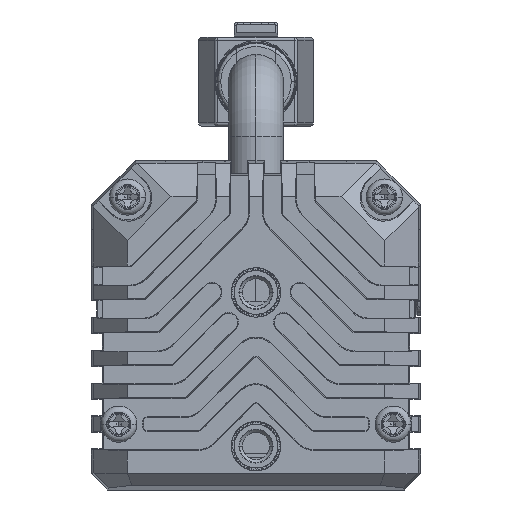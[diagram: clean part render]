
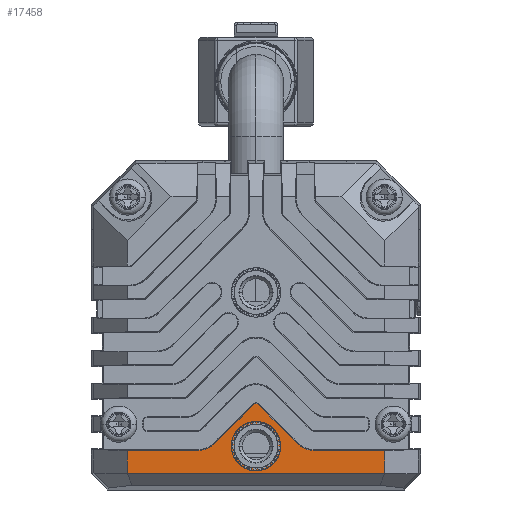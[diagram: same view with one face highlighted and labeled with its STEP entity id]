
A CAD part, left-side view. The second image highlights one B-rep face of the part: STEP entity #17458.
In plain terms, the highlighted planar face has unit normal (-1, 0, 0) as drawn and (1, 0, 0) by its records, which use the part's own axes.
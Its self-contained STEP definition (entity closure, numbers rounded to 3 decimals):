
#10366=CARTESIAN_POINT('',(5.,0.,7.527));
#10367=DIRECTION('',(1.,0.,0.));
#10368=DIRECTION('',(0.,0.707,0.707));
#10369=AXIS2_PLACEMENT_3D('',#10366,#10367,#10368);
#10375=DIRECTION('',(0.,0.707,-0.707));
#10376=VECTOR('',#10375,5.013);
#10377=CARTESIAN_POINT('',(5.,0.242,7.769));
#10378=LINE('',#10377,#10376);
#10382=DIRECTION('',(0.,-1.,0.));
#10383=VECTOR('',#10382,6.438);
#10384=CARTESIAN_POINT('',(5.,11.75,3.593));
#10385=LINE('',#10384,#10383);
#10389=DIRECTION('',(0.,0.,1.));
#10390=VECTOR('',#10389,2.093);
#10391=CARTESIAN_POINT('',(5.,11.75,1.5));
#10392=LINE('',#10391,#10390);
#10396=DIRECTION('',(0.,1.,0.));
#10397=VECTOR('',#10396,23.5);
#10398=CARTESIAN_POINT('',(5.,-11.75,1.5));
#10399=LINE('',#10398,#10397);
#10403=DIRECTION('',(0.,0.,-1.));
#10404=VECTOR('',#10403,2.093);
#10405=CARTESIAN_POINT('',(5.,-11.75,3.593));
#10406=LINE('',#10405,#10404);
#10410=DIRECTION('',(0.,1.,0.));
#10411=VECTOR('',#10410,6.438);
#10412=CARTESIAN_POINT('',(5.,-11.75,3.593));
#10413=LINE('',#10412,#10411);
#10417=DIRECTION('',(0.,0.707,0.707));
#10418=VECTOR('',#10417,5.013);
#10419=CARTESIAN_POINT('',(5.,-3.787,4.225));
#10420=LINE('',#10419,#10418);
#10424=CARTESIAN_POINT('',(5.,0.,4.));
#10425=DIRECTION('',(1.,0.,0.));
#10426=DIRECTION('',(0.,1.,0.));
#10427=AXIS2_PLACEMENT_3D('',#10424,#10425,#10426);
#10432=CARTESIAN_POINT('',(5.,0.,4.));
#10433=DIRECTION('',(1.,0.,0.));
#10434=DIRECTION('',(0.,-1.,0.));
#10435=AXIS2_PLACEMENT_3D('',#10432,#10433,#10434);
#11161=CARTESIAN_POINT('',(5.,-5.312,5.75));
#11162=DIRECTION('',(-1.,0.,0.));
#11163=DIRECTION('',(0.,0.707,-0.707));
#11164=AXIS2_PLACEMENT_3D('',#11161,#11162,#11163);
#14680=CARTESIAN_POINT('',(5.,5.312,5.75));
#14681=DIRECTION('',(-1.,0.,0.));
#14682=DIRECTION('',(0.,0.,-1.));
#14683=AXIS2_PLACEMENT_3D('',#14680,#14681,#14682);
#16353=CARTESIAN_POINT('',(5.,2.,4.));
#16354=CARTESIAN_POINT('',(5.,-2.,4.));
#16355=VERTEX_POINT('',#16353);
#16356=VERTEX_POINT('',#16354);
#16357=CARTESIAN_POINT('',(5.,-11.75,1.5));
#16358=CARTESIAN_POINT('',(5.,11.75,1.5));
#16359=VERTEX_POINT('',#16357);
#16360=VERTEX_POINT('',#16358);
#16459=CARTESIAN_POINT('',(5.,5.312,3.593));
#16460=VERTEX_POINT('',#16459);
#16461=CARTESIAN_POINT('',(5.,3.787,4.225));
#16462=VERTEX_POINT('',#16461);
#16467=CARTESIAN_POINT('',(5.,-3.787,4.225));
#16468=VERTEX_POINT('',#16467);
#16469=CARTESIAN_POINT('',(5.,-5.312,3.593));
#16470=VERTEX_POINT('',#16469);
#16547=CARTESIAN_POINT('',(5.,-11.75,3.593));
#16548=VERTEX_POINT('',#16547);
#16549=CARTESIAN_POINT('',(5.,11.75,3.593));
#16550=VERTEX_POINT('',#16549);
#16567=CARTESIAN_POINT('',(5.,0.242,7.769));
#16568=CARTESIAN_POINT('',(5.,-0.242,7.769));
#16569=VERTEX_POINT('',#16567);
#16570=VERTEX_POINT('',#16568);
#17425=CARTESIAN_POINT('',(5.,0.,0.));
#17426=DIRECTION('',(1.,0.,0.));
#17427=DIRECTION('',(0.,1.,0.));
#17428=AXIS2_PLACEMENT_3D('',#17425,#17426,#17427);
#17429=PLANE('',#17428);
#17431=ORIENTED_EDGE('',*,*,#17430,.F.);
#17433=ORIENTED_EDGE('',*,*,#17432,.T.);
#17435=ORIENTED_EDGE('',*,*,#17434,.F.);
#17437=ORIENTED_EDGE('',*,*,#17436,.F.);
#17439=ORIENTED_EDGE('',*,*,#17438,.F.);
#17441=ORIENTED_EDGE('',*,*,#17440,.F.);
#17443=ORIENTED_EDGE('',*,*,#17442,.F.);
#17445=ORIENTED_EDGE('',*,*,#17444,.T.);
#17447=ORIENTED_EDGE('',*,*,#17446,.F.);
#17449=ORIENTED_EDGE('',*,*,#17448,.T.);
#17450=EDGE_LOOP('',(#17431,#17433,#17435,#17437,#17439,#17441,#17443,#17445,
#17447,#17449));
#17451=FACE_OUTER_BOUND('',#17450,.F.);
#17453=ORIENTED_EDGE('',*,*,#17452,.T.);
#17455=ORIENTED_EDGE('',*,*,#17454,.T.);
#17456=EDGE_LOOP('',(#17453,#17455));
#17457=FACE_BOUND('',#17456,.F.);
#10370=CIRCLE('',#10369,0.343);
#10428=CIRCLE('',#10427,2.);
#10436=CIRCLE('',#10435,2.);
#11165=CIRCLE('',#11164,2.157);
#14684=CIRCLE('',#14683,2.157);
#17430=EDGE_CURVE('',#16569,#16570,#10370,.T.);
#17432=EDGE_CURVE('',#16569,#16462,#10378,.T.);
#17434=EDGE_CURVE('',#16460,#16462,#14684,.T.);
#17436=EDGE_CURVE('',#16550,#16460,#10385,.T.);
#17438=EDGE_CURVE('',#16360,#16550,#10392,.T.);
#17440=EDGE_CURVE('',#16359,#16360,#10399,.T.);
#17442=EDGE_CURVE('',#16548,#16359,#10406,.T.);
#17444=EDGE_CURVE('',#16548,#16470,#10413,.T.);
#17446=EDGE_CURVE('',#16468,#16470,#11165,.T.);
#17448=EDGE_CURVE('',#16468,#16570,#10420,.T.);
#17452=EDGE_CURVE('',#16355,#16356,#10428,.T.);
#17454=EDGE_CURVE('',#16356,#16355,#10436,.T.);
#17458=ADVANCED_FACE('',(#17451,#17457),#17429,.T.);
